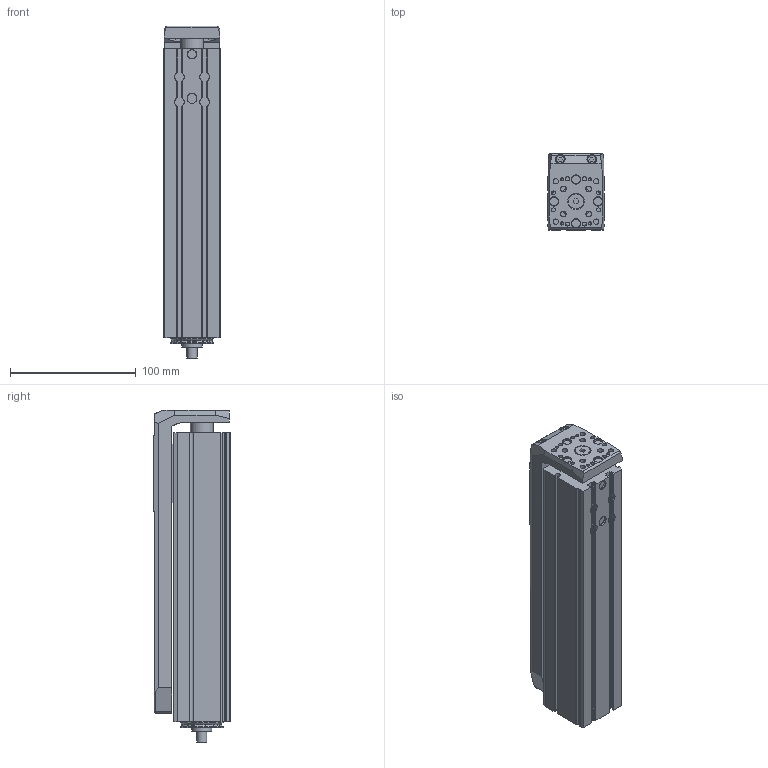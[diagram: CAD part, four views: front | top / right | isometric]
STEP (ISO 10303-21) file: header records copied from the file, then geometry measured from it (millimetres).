
FILE_DESCRIPTION(/* description */ ('STEP AP214'),/* implementation_level */ '2;1');
FILE_NAME(/* name */ 'MSCE 45 1003 150(0)',/* time_stamp */ '2023-10-09T11:28:35+02:00',/* author */ ('License CC BY-ND 4.0'),/* organization */ ('CADENAS'),/* preprocessor_version */ 'ST-DEVELOPER v19.3',/* originating_system */ 'PARTsolutions',/* authorisation */ ' ');
FILE_SCHEMA (('CONFIG_CONTROL_DESIGN','AUTOMOTIVE_DESIGN { 1 0 10303 214 3 1 1 }','AUTOMOTIVE_DESIGN {1 0 10303 214 3 1 1}'));
Length unit declared in the file: millimetre
Products named in the file (3): MSCE 45 1003 150(0); 45(150)_prp; 45(150)_msce
Assembly tree (2 placements, depth 2):
  MSCE 45 1003 150(0)
    45(150)_prp
    45(150)_msce
Bounding box: 45 x 60.5 x 264 mm (x, y, z)
Volume: 484833.9 mm3; surface area: 138803.5 mm2
Topology: 2 solids, 2 shells, 436 faces, 1125 edges, 741 vertices
Faces by surface type: plane 208, cylinder 198, cone 23, torus 7
Full cylindrical faces by diameter (mm): 2.459 x8, 3.2 x8, 3.242 x8, 4 x2, 4.134 x4, 4.5 x4, 6 x8, 7 x7, 7.5 x4, 7.6 x2, 8 x1, 12 x1, 16 x1, 18 x2, 24 x1, 24.5 x1, 34 x2, 37.5 x2
Entity records: 14172 total; most frequent: CARTESIAN_POINT 2561, DIRECTION 2180, ORIENTED_EDGE 2034, EDGE_CURVE 1017, AXIS2_PLACEMENT_3D 825, VERTEX_POINT 729, FACE_BOUND 612, EDGE_LOOP 608
